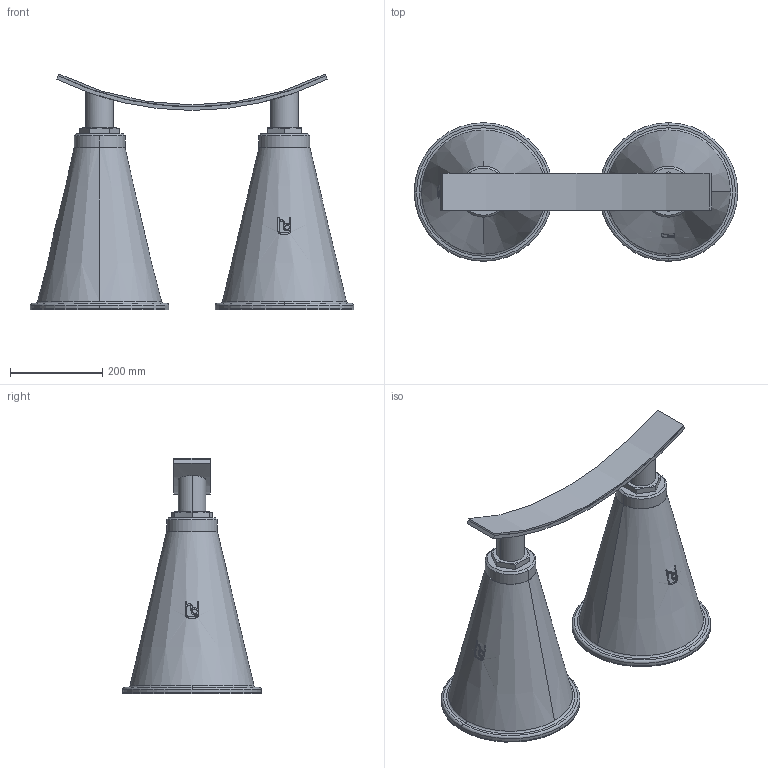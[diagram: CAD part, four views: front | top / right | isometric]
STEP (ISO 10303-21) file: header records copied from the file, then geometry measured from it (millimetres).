
FILE_DESCRIPTION(('STEP AP214'),'1');
FILE_NAME('RSRFB-DUO_DN1300.stp','2018-06-26T14:24:12',(' '),(' '),'Spatial InterOp 3D',' ',' ');
FILE_SCHEMA(('automotive_design'));
Length unit declared in the file: millimetre
Products named in the file (10): 1; 2; 3; 4; 5; 6; 7; 8; 9; 10
Bounding box: 700 x 300 x 510.34 mm (x, y, z)
Volume: 25189967.3 mm3; surface area: 1324533.9 mm2
Topology: 10 solids, 13 shells, 209 faces, 498 edges, 322 vertices
Faces by surface type: plane 84, cylinder 77, cone 40, torus 8
Entity records: 9173 total; most frequent: CARTESIAN_POINT 2453, DIRECTION 1032, ORIENTED_EDGE 996, EDGE_CURVE 498, AXIS2_PLACEMENT_3D 405, VERTEX_POINT 322, EDGE_LOOP 226, LINE 222
